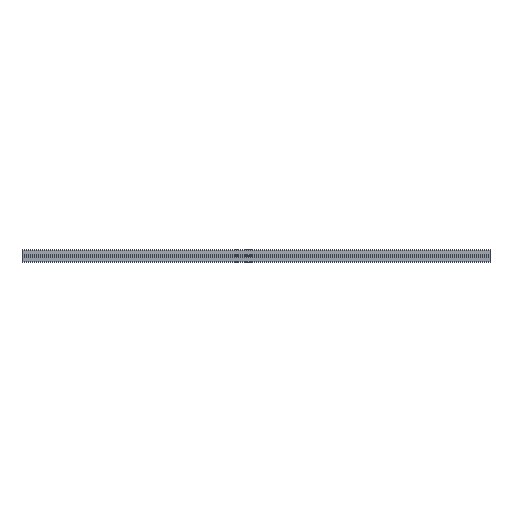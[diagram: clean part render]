
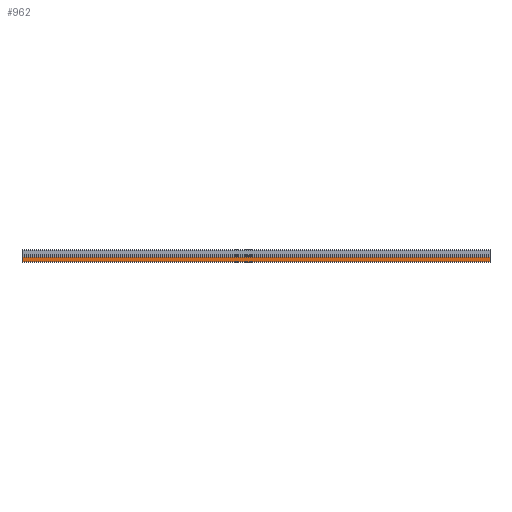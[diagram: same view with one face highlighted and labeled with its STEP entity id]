
A CAD part, left-side view. The second image highlights one B-rep face of the part: STEP entity #962.
In plain terms, the highlighted planar face has unit normal (-1, 0, 0).
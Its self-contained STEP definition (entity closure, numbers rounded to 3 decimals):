
#443 = VECTOR ( 'NONE', #445, 1000. ) ;
#445 = DIRECTION ( 'NONE',  ( 0., 0., 1. ) ) ;
#701 = CARTESIAN_POINT ( 'NONE',  ( -20., -750., -18. ) ) ;
#962 = ADVANCED_FACE ( 'NONE', ( #6386 ), #4247, .F. ) ;
#1046 = ORIENTED_EDGE ( 'NONE', *, *, #1255, .T. ) ;
#1255 = EDGE_CURVE ( 'NONE', #7920, #6295, #4859, .T. ) ;
#1454 = AXIS2_PLACEMENT_3D ( 'NONE', #4111, #3540, #3181 ) ;
#2041 = EDGE_CURVE ( 'NONE', #4895, #7699, #3912, .T. ) ;
#3181 = DIRECTION ( 'NONE',  ( 0., 0., -1. ) ) ;
#3540 = DIRECTION ( 'NONE',  ( 1., 0., 0. ) ) ;
#3717 = CARTESIAN_POINT ( 'NONE',  ( -20., -750., -18. ) ) ;
#3779 = DIRECTION ( 'NONE',  ( 0., 0., 1. ) ) ;
#3912 = LINE ( 'NONE', #8264, #443 ) ;
#3971 = DIRECTION ( 'NONE',  ( 0., -1., 0. ) ) ;
#4111 = CARTESIAN_POINT ( 'NONE',  ( -20., 750., -18. ) ) ;
#4247 = PLANE ( 'NONE',  #1454 ) ;
#4706 = LINE ( 'NONE', #6427, #7971 ) ;
#4844 = EDGE_LOOP ( 'NONE', ( #1046, #6516, #7565, #5424 ) ) ;
#4859 = LINE ( 'NONE', #3717, #5056 ) ;
#4895 = VERTEX_POINT ( 'NONE', #6191 ) ;
#5056 = VECTOR ( 'NONE', #3779, 1000. ) ;
#5413 = VECTOR ( 'NONE', #3971, 1000. ) ;
#5424 = ORIENTED_EDGE ( 'NONE', *, *, #6131, .T. ) ;
#5438 = CARTESIAN_POINT ( 'NONE',  ( -20., -750., -3.375 ) ) ;
#6131 = EDGE_CURVE ( 'NONE', #4895, #7920, #4706, .T. ) ;
#6191 = CARTESIAN_POINT ( 'NONE',  ( -20., 750., -18. ) ) ;
#6295 = VERTEX_POINT ( 'NONE', #5438 ) ;
#6386 = FACE_OUTER_BOUND ( 'NONE', #4844, .T. ) ;
#6427 = CARTESIAN_POINT ( 'NONE',  ( -20., 750., -18. ) ) ;
#6516 = ORIENTED_EDGE ( 'NONE', *, *, #6677, .F. ) ;
#6677 = EDGE_CURVE ( 'NONE', #7699, #6295, #7136, .T. ) ;
#6807 = CARTESIAN_POINT ( 'NONE',  ( -20., 750., -3.375 ) ) ;
#7136 = LINE ( 'NONE', #7874, #5413 ) ;
#7565 = ORIENTED_EDGE ( 'NONE', *, *, #2041, .F. ) ;
#7699 = VERTEX_POINT ( 'NONE', #6807 ) ;
#7874 = CARTESIAN_POINT ( 'NONE',  ( -20., 750., -3.375 ) ) ;
#7920 = VERTEX_POINT ( 'NONE', #701 ) ;
#7971 = VECTOR ( 'NONE', #8393, 1000. ) ;
#8264 = CARTESIAN_POINT ( 'NONE',  ( -20., 750., -18. ) ) ;
#8393 = DIRECTION ( 'NONE',  ( 0., -1., 0. ) ) ;
